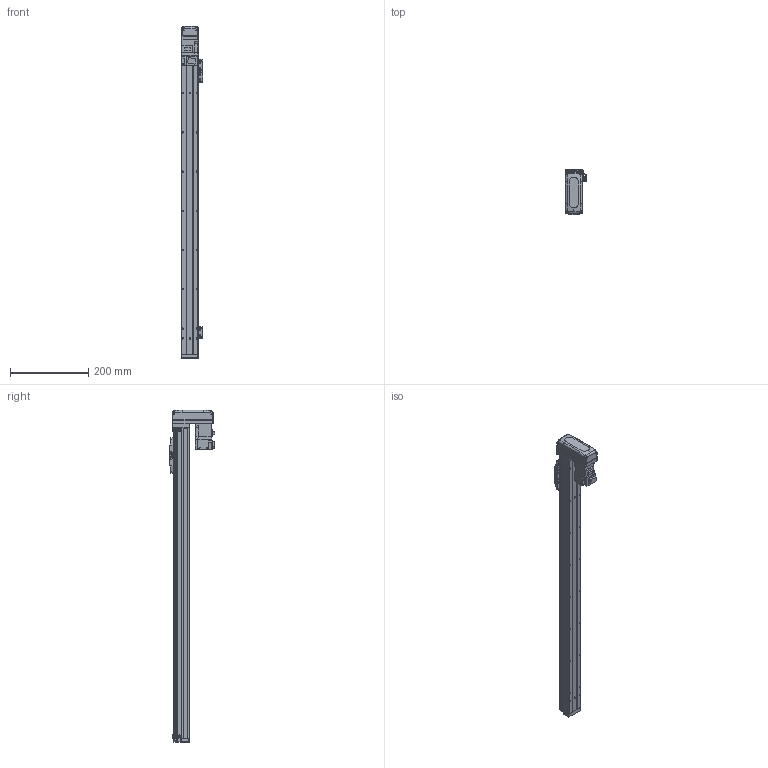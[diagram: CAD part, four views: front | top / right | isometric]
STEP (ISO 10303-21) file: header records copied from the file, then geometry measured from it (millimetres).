
FILE_DESCRIPTION (( 'STEP AP203' ), '1' );
FILE_NAME ('GTH4-650-BM-M05-C4.step', '2023-08-28T00:43:16', ( '微软用户' ), ( '微软中国' ), 'SwSTEP 2.0', 'SolidWorks 2020', '' );
FILE_SCHEMA (( 'CONFIG_CONTROL_DESIGN' ));
Length unit declared in the file: millimetre
Products named in the file (19): BTH40-001-50_BTH40-001-650; BTH50-024; HG-KR13; BTH40-003; GBT 70.1-M3℅6; GBT 70.3-M3℅6; BTH40-006; GBT96.1-2002 3×0.8; BTH40-027-1; BTH-M3X5X6; BTH40-022; GBT70.1-2000 M3×16; GBT 70.1-M2.5×6; BTH50-026; BTH50-028; BTH40-004; GTH4-650-BM-M05-C4; BTH50-023; BTH40-013
Assembly tree (47 placements, depth 2):
  GTH4-650-BM-M05-C4
    BTH40-001-50_BTH40-001-650
    BTH40-003
    BTH40-006
    BTH-M3X5X6  x8
    GBT70.1-2000 M3×16  x4
    BTH50-028  x2
    BTH50-023  x3
    BTH50-024  x3
    GBT 70.1-M3℅6  x6
    GBT96.1-2002 3×0.8  x6
    BTH40-022
    GBT 70.1-M2.5×6  x2
    BTH40-004
    BTH40-013
    HG-KR13
    GBT 70.3-M3℅6  x4
    BTH40-027-1
    BTH50-026
Bounding box: 55.2 x 115.8 x 846 mm (x, y, z)
Volume: 1499001.4 mm3; surface area: 256985 mm2
Topology: 49 solids, 49 shells, 1991 faces, 4683 edges, 2882 vertices
Faces by surface type: plane 1052, cylinder 503, cone 270, torus 128, bspline 34, sphere 4
Entity records: 39987 total; most frequent: CARTESIAN_POINT 7642, DIRECTION 6280, ORIENTED_EDGE 6012, EDGE_CURVE 3006, AXIS2_PLACEMENT_3D 2155, VECTOR 1970, LINE 1970, VERTEX_POINT 1869
